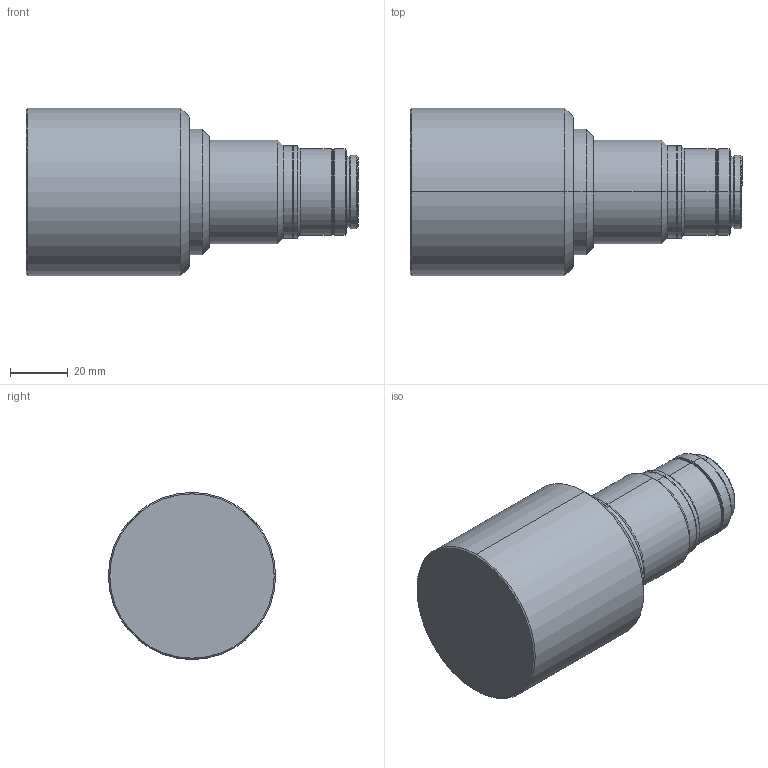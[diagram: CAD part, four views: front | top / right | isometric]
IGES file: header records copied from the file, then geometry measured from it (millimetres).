
Start section: SolidWorks IGES file using analytic representation for surfaces
Global section: file name: C:\Users\sugita_vst\Desktop\AutoCAD図面DATA\●・VS-TCM022-110_1.8  (3Dモデル) ▲\VS-TCM022-110-1_1.8.IGS; native system: SolidWorks 2018; preprocessor: SolidWorks 2018; author: sugita_vst; date: 190718.092943; units: millimetre
Bounding box: 115.2 x 58 x 58 mm (x, y, z)
Surface area: 21260.8 mm2 (no closed solid volume)
Topology: 0 solids, 0 shells, 53 faces, 888 edges, 888 vertices
Faces by surface type: revolution 46, bspline 7
